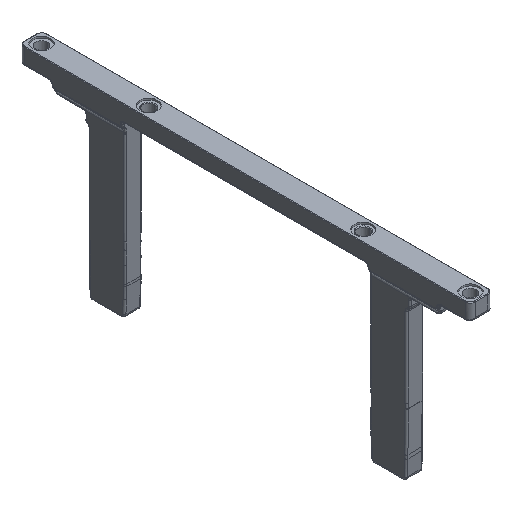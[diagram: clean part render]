
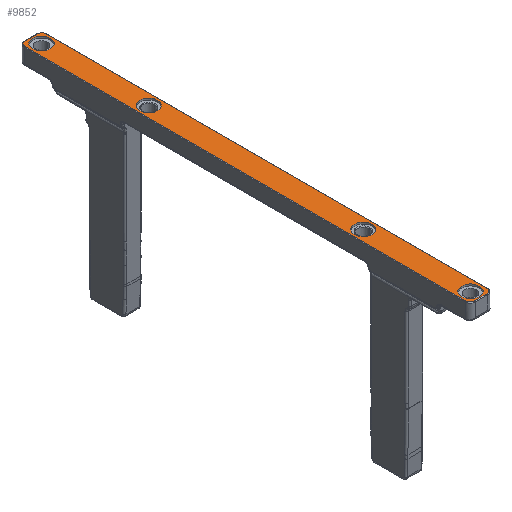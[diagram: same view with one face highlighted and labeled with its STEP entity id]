
A CAD part, isometric view. The second image highlights one B-rep face of the part: STEP entity #9852.
In plain terms, the highlighted planar face has unit normal (0, 0, 1).
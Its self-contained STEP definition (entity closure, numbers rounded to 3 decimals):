
#311 = ORIENTED_EDGE ( 'NONE', *, *, #883, .F. ) ;
#611 = EDGE_CURVE ( 'NONE', #11295, #11353, #8006, .T. ) ;
#626 = EDGE_CURVE ( 'NONE', #11380, #11362, #8125, .T. ) ;
#634 = EDGE_CURVE ( 'NONE', #11392, #11390, #8224, .T. ) ;
#637 = EDGE_CURVE ( 'NONE', #11390, #11380, #7916, .T. ) ;
#643 = EDGE_CURVE ( 'NONE', #11360, #11295, #8051, .T. ) ;
#652 = EDGE_CURVE ( 'NONE', #11373, #11372, #8106, .T. ) ;
#654 = EDGE_CURVE ( 'NONE', #11353, #11399, #8235, .T. ) ;
#669 = EDGE_CURVE ( 'NONE', #11375, #11212, #7995, .T. ) ;
#716 = EDGE_CURVE ( 'NONE', #11278, #11221, #8078, .T. ) ;
#718 = EDGE_CURVE ( 'NONE', #11399, #11392, #7807, .T. ) ;
#727 = EDGE_CURVE ( 'NONE', #11362, #11360, #8149, .T. ) ;
#883 = EDGE_CURVE ( 'NONE', #11218, #11215, #7949, .T. ) ;
#3229 = DIRECTION ( 'NONE',  ( 1., 0., 0. ) ) ;
#3230 = DIRECTION ( 'NONE',  ( 0., 0., 1. ) ) ;
#3231 = CARTESIAN_POINT ( 'NONE',  ( 0., 76., 50.5 ) ) ;
#3741 = CARTESIAN_POINT ( 'NONE',  ( 1.9, -23.1, 50.5 ) ) ;
#3801 = CARTESIAN_POINT ( 'NONE',  ( 3.2, -21.8, 50.5 ) ) ;
#3806 = CARTESIAN_POINT ( 'NONE',  ( 3.2, 109.8, 50.5 ) ) ;
#3884 = CARTESIAN_POINT ( 'NONE',  ( 1.9, 111.1, 50.5 ) ) ;
#3929 = CARTESIAN_POINT ( 'NONE',  ( 2.65, 12., 50.5 ) ) ;
#3940 = CARTESIAN_POINT ( 'NONE',  ( 2.65, -20., 50.5 ) ) ;
#3947 = CARTESIAN_POINT ( 'NONE',  ( -2.65, -20., 50.5 ) ) ;
#3991 = CARTESIAN_POINT ( 'NONE',  ( -1.9, 111.1, 50.5 ) ) ;
#3992 = CARTESIAN_POINT ( 'NONE',  ( -3.2, 109.8, 50.5 ) ) ;
#4017 = CARTESIAN_POINT ( 'NONE',  ( -1.9, -23.1, 50.5 ) ) ;
#4212 = CARTESIAN_POINT ( 'NONE',  ( -3.2, -21.8, 50.5 ) ) ;
#4228 = CARTESIAN_POINT ( 'NONE',  ( 2.65, 108., 50.5 ) ) ;
#4287 = CARTESIAN_POINT ( 'NONE',  ( -2.65, 108., 50.5 ) ) ;
#4290 = CARTESIAN_POINT ( 'NONE',  ( 2.65, 76., 50.5 ) ) ;
#4293 = CARTESIAN_POINT ( 'NONE',  ( -2.65, 76., 50.5 ) ) ;
#4300 = CARTESIAN_POINT ( 'NONE',  ( -2.65, 12., 50.5 ) ) ;
#6362 = DIRECTION ( 'NONE',  ( 1., 0., 0. ) ) ;
#6364 = CARTESIAN_POINT ( 'NONE',  ( 0., 0., 50.5 ) ) ;
#6368 = PLANE ( 'NONE',  #7098 ) ;
#6371 = DIRECTION ( 'NONE',  ( 0., 0., 1. ) ) ;
#6563 = AXIS2_PLACEMENT_3D ( 'NONE', #10626, #10627, #10628 ) ;
#6564 = AXIS2_PLACEMENT_3D ( 'NONE', #10672, #10673, #10674 ) ;
#6566 = AXIS2_PLACEMENT_3D ( 'NONE', #10564, #10569, #10590 ) ;
#6569 = AXIS2_PLACEMENT_3D ( 'NONE', #10497, #10516, #10520 ) ;
#6581 = AXIS2_PLACEMENT_3D ( 'NONE', #10533, #10534, #10535 ) ;
#6583 = AXIS2_PLACEMENT_3D ( 'NONE', #10510, #10509, #10508 ) ;
#6584 = AXIS2_PLACEMENT_3D ( 'NONE', #10539, #10540, #10541 ) ;
#6646 = AXIS2_PLACEMENT_3D ( 'NONE', #3231, #3230, #3229 ) ;
#6965 = AXIS2_PLACEMENT_3D ( 'NONE', #9050, #9053, #9241 ) ;
#6968 = AXIS2_PLACEMENT_3D ( 'NONE', #9431, #9237, #9123 ) ;
#6972 = AXIS2_PLACEMENT_3D ( 'NONE', #9138, #8943, #8942 ) ;
#6979 = AXIS2_PLACEMENT_3D ( 'NONE', #8930, #8920, #8929 ) ;
#7098 = AXIS2_PLACEMENT_3D ( 'NONE', #6364, #6371, #6362 ) ;
#7539 = EDGE_CURVE ( 'NONE', #11212, #11375, #15498, .T. ) ;
#7548 = EDGE_CURVE ( 'NONE', #11215, #11218, #15420, .T. ) ;
#7560 = EDGE_CURVE ( 'NONE', #11372, #11373, #15732, .T. ) ;
#7565 = EDGE_CURVE ( 'NONE', #11221, #11278, #15752, .T. ) ;
#7807 = CIRCLE ( 'NONE', #6584, 1.3 ) ;
#7846 = VECTOR ( 'NONE', #10563, 1000. ) ;
#7890 = VECTOR ( 'NONE', #10454, 1000. ) ;
#7899 = VECTOR ( 'NONE', #10654, 1000. ) ;
#7916 = CIRCLE ( 'NONE', #6564, 1.3 ) ;
#7949 = CIRCLE ( 'NONE', #6646, 2.65 ) ;
#7995 = CIRCLE ( 'NONE', #6569, 2.65 ) ;
#8006 = CIRCLE ( 'NONE', #6563, 1.3 ) ;
#8051 = LINE ( 'NONE', #10675, #7890 ) ;
#8078 = CIRCLE ( 'NONE', #6581, 2.65 ) ;
#8106 = CIRCLE ( 'NONE', #6566, 2.65 ) ;
#8125 = LINE ( 'NONE', #10655, #7899 ) ;
#8138 = VECTOR ( 'NONE', #10667, 1000. ) ;
#8149 = CIRCLE ( 'NONE', #6583, 1.3 ) ;
#8224 = LINE ( 'NONE', #10661, #8138 ) ;
#8235 = LINE ( 'NONE', #10557, #7846 ) ;
#8920 = DIRECTION ( 'NONE',  ( 0., 0., 1. ) ) ;
#8929 = DIRECTION ( 'NONE',  ( 1., 0., 0. ) ) ;
#8930 = CARTESIAN_POINT ( 'NONE',  ( 0., 108., 50.5 ) ) ;
#8942 = DIRECTION ( 'NONE',  ( 1., 0., 0. ) ) ;
#8943 = DIRECTION ( 'NONE',  ( 0., 0., 1. ) ) ;
#9050 = CARTESIAN_POINT ( 'NONE',  ( 0., 12., 50.5 ) ) ;
#9053 = DIRECTION ( 'NONE',  ( 0., 0., 1. ) ) ;
#9123 = DIRECTION ( 'NONE',  ( 1., 0., 0. ) ) ;
#9138 = CARTESIAN_POINT ( 'NONE',  ( 0., -20., 50.5 ) ) ;
#9237 = DIRECTION ( 'NONE',  ( 0., 0., 1. ) ) ;
#9241 = DIRECTION ( 'NONE',  ( 1., 0., 0. ) ) ;
#9431 = CARTESIAN_POINT ( 'NONE',  ( 0., 76., 50.5 ) ) ;
#9852 = ADVANCED_FACE ( 'NONE', ( #15386, #15472, #15387, #15512, #15390 ), #6368, .T. ) ;
#10454 = DIRECTION ( 'NONE',  ( 0., -1., 0. ) ) ;
#10497 = CARTESIAN_POINT ( 'NONE',  ( 0., 12., 50.5 ) ) ;
#10508 = DIRECTION ( 'NONE',  ( 1., 0., 0. ) ) ;
#10509 = DIRECTION ( 'NONE',  ( 0., 0., 1. ) ) ;
#10510 = CARTESIAN_POINT ( 'NONE',  ( -1.9, 109.8, 50.5 ) ) ;
#10516 = DIRECTION ( 'NONE',  ( 0., 0., 1. ) ) ;
#10520 = DIRECTION ( 'NONE',  ( 1., 0., 0. ) ) ;
#10533 = CARTESIAN_POINT ( 'NONE',  ( 0., 108., 50.5 ) ) ;
#10534 = DIRECTION ( 'NONE',  ( 0., 0., 1. ) ) ;
#10535 = DIRECTION ( 'NONE',  ( 1., 0., 0. ) ) ;
#10539 = CARTESIAN_POINT ( 'NONE',  ( 1.9, -21.8, 50.5 ) ) ;
#10540 = DIRECTION ( 'NONE',  ( 0., 0., 1. ) ) ;
#10541 = DIRECTION ( 'NONE',  ( 1., 0., 0. ) ) ;
#10557 = CARTESIAN_POINT ( 'NONE',  ( 1.9, -23.1, 50.5 ) ) ;
#10563 = DIRECTION ( 'NONE',  ( 1., 0., 0. ) ) ;
#10564 = CARTESIAN_POINT ( 'NONE',  ( 0., -20., 50.5 ) ) ;
#10569 = DIRECTION ( 'NONE',  ( 0., 0., 1. ) ) ;
#10590 = DIRECTION ( 'NONE',  ( 1., 0., 0. ) ) ;
#10626 = CARTESIAN_POINT ( 'NONE',  ( -1.9, -21.8, 50.5 ) ) ;
#10627 = DIRECTION ( 'NONE',  ( 0., 0., 1. ) ) ;
#10628 = DIRECTION ( 'NONE',  ( 1., 0., 0. ) ) ;
#10654 = DIRECTION ( 'NONE',  ( -1., 0., 0. ) ) ;
#10655 = CARTESIAN_POINT ( 'NONE',  ( -1.9, 111.1, 50.5 ) ) ;
#10661 = CARTESIAN_POINT ( 'NONE',  ( 3.2, 109.8, 50.5 ) ) ;
#10667 = DIRECTION ( 'NONE',  ( 0., 1., 0. ) ) ;
#10672 = CARTESIAN_POINT ( 'NONE',  ( 1.9, 109.8, 50.5 ) ) ;
#10673 = DIRECTION ( 'NONE',  ( 0., 0., 1. ) ) ;
#10674 = DIRECTION ( 'NONE',  ( 1., 0., 0. ) ) ;
#10675 = CARTESIAN_POINT ( 'NONE',  ( -3.2, -21.8, 50.5 ) ) ;
#11212 = VERTEX_POINT ( 'NONE', #4300 ) ;
#11215 = VERTEX_POINT ( 'NONE', #4293 ) ;
#11218 = VERTEX_POINT ( 'NONE', #4290 ) ;
#11221 = VERTEX_POINT ( 'NONE', #4287 ) ;
#11278 = VERTEX_POINT ( 'NONE', #4228 ) ;
#11295 = VERTEX_POINT ( 'NONE', #4212 ) ;
#11353 = VERTEX_POINT ( 'NONE', #4017 ) ;
#11360 = VERTEX_POINT ( 'NONE', #3992 ) ;
#11362 = VERTEX_POINT ( 'NONE', #3991 ) ;
#11372 = VERTEX_POINT ( 'NONE', #3947 ) ;
#11373 = VERTEX_POINT ( 'NONE', #3940 ) ;
#11375 = VERTEX_POINT ( 'NONE', #3929 ) ;
#11380 = VERTEX_POINT ( 'NONE', #3884 ) ;
#11390 = VERTEX_POINT ( 'NONE', #3806 ) ;
#11392 = VERTEX_POINT ( 'NONE', #3801 ) ;
#11399 = VERTEX_POINT ( 'NONE', #3741 ) ;
#11409 = EDGE_LOOP ( 'NONE', ( #13781, #311 ) ) ;
#12803 = EDGE_LOOP ( 'NONE', ( #13759, #13691 ) ) ;
#12855 = EDGE_LOOP ( 'NONE', ( #13110, #13366 ) ) ;
#12917 = EDGE_LOOP ( 'NONE', ( #13137, #13873, #14014, #13254, #13977, #13752, #13458, #13961 ) ) ;
#12932 = EDGE_LOOP ( 'NONE', ( #13520, #13821 ) ) ;
#13110 = ORIENTED_EDGE ( 'NONE', *, *, #7560, .F. ) ;
#13137 = ORIENTED_EDGE ( 'NONE', *, *, #634, .T. ) ;
#13254 = ORIENTED_EDGE ( 'NONE', *, *, #727, .T. ) ;
#13366 = ORIENTED_EDGE ( 'NONE', *, *, #652, .F. ) ;
#13458 = ORIENTED_EDGE ( 'NONE', *, *, #654, .T. ) ;
#13520 = ORIENTED_EDGE ( 'NONE', *, *, #7539, .F. ) ;
#13691 = ORIENTED_EDGE ( 'NONE', *, *, #716, .F. ) ;
#13752 = ORIENTED_EDGE ( 'NONE', *, *, #611, .T. ) ;
#13759 = ORIENTED_EDGE ( 'NONE', *, *, #7565, .F. ) ;
#13781 = ORIENTED_EDGE ( 'NONE', *, *, #7548, .F. ) ;
#13821 = ORIENTED_EDGE ( 'NONE', *, *, #669, .F. ) ;
#13873 = ORIENTED_EDGE ( 'NONE', *, *, #637, .T. ) ;
#13961 = ORIENTED_EDGE ( 'NONE', *, *, #718, .T. ) ;
#13977 = ORIENTED_EDGE ( 'NONE', *, *, #643, .T. ) ;
#14014 = ORIENTED_EDGE ( 'NONE', *, *, #626, .T. ) ;
#15386 = FACE_OUTER_BOUND ( 'NONE', #12917, .T. ) ;
#15387 = FACE_BOUND ( 'NONE', #12803, .T. ) ;
#15390 = FACE_BOUND ( 'NONE', #11409, .T. ) ;
#15420 = CIRCLE ( 'NONE', #6968, 2.65 ) ;
#15472 = FACE_BOUND ( 'NONE', #12855, .T. ) ;
#15498 = CIRCLE ( 'NONE', #6965, 2.65 ) ;
#15512 = FACE_BOUND ( 'NONE', #12932, .T. ) ;
#15732 = CIRCLE ( 'NONE', #6972, 2.65 ) ;
#15752 = CIRCLE ( 'NONE', #6979, 2.65 ) ;
